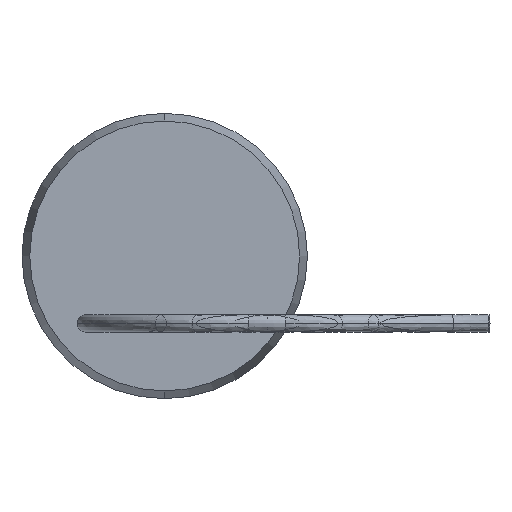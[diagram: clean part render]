
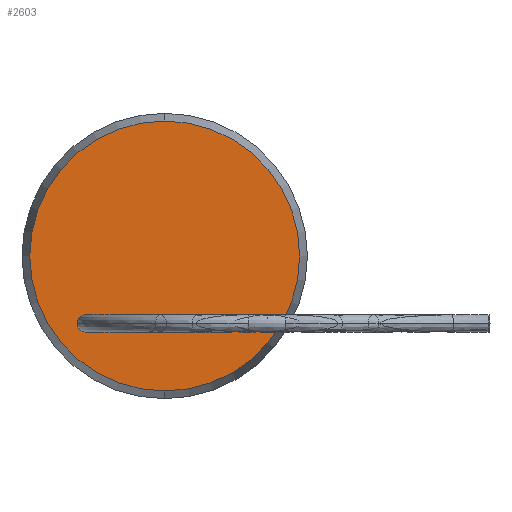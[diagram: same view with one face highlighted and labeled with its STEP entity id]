
A CAD part, left-side view. The second image highlights one B-rep face of the part: STEP entity #2603.
In plain terms, the highlighted planar face has unit normal (-1, 0, 0).
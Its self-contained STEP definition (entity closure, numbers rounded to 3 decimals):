
#1051 = CIRCLE ( 'NONE', #1052, 9.314 ) ;
#1052 = AXIS2_PLACEMENT_3D ( 'NONE', #1053, #1054, #1055 ) ;
#1053 = CARTESIAN_POINT ( 'NONE',  ( 0., 0., 0. ) ) ;
#1054 = DIRECTION ( 'NONE',  ( 1., 0., 0. ) ) ;
#1055 = DIRECTION ( 'NONE',  ( 0., 0., -1. ) ) ;
#1169 = CIRCLE ( 'NONE', #1170, 0.6 ) ;
#1170 = AXIS2_PLACEMENT_3D ( 'NONE', #1171, #1172, #1173 ) ;
#1171 = CARTESIAN_POINT ( 'NONE',  ( 0., 0., -4.65 ) ) ;
#1172 = DIRECTION ( 'NONE',  ( -1., 0., 0. ) ) ;
#1173 = DIRECTION ( 'NONE',  ( 0., 0., 1. ) ) ;
#1187 = FACE_BOUND ( 'NONE', #2663, .T. ) ;
#1188 = FACE_BOUND ( 'NONE', #3842, .T. ) ;
#1190 = FACE_BOUND ( 'NONE', #4970, .T. ) ;
#1191 = FACE_OUTER_BOUND ( 'NONE', #1741, .T. ) ;
#1192 = PLANE ( 'NONE',  #1193 ) ;
#1193 = AXIS2_PLACEMENT_3D ( 'NONE', #1194, #1195, #1196 ) ;
#1194 = CARTESIAN_POINT ( 'NONE',  ( 0., 9.687, 9.687 ) ) ;
#1195 = DIRECTION ( 'NONE',  ( 1., 0., 0. ) ) ;
#1196 = DIRECTION ( 'NONE',  ( 0., -1., 0. ) ) ;
#1214 = CIRCLE ( 'NONE', #1215, 0.6 ) ;
#1215 = AXIS2_PLACEMENT_3D ( 'NONE', #1216, #1217, #1218 ) ;
#1216 = CARTESIAN_POINT ( 'NONE',  ( 0., 0., -4.65 ) ) ;
#1217 = DIRECTION ( 'NONE',  ( -1., 0., 0. ) ) ;
#1218 = DIRECTION ( 'NONE',  ( 0., 0., 1. ) ) ;
#1634 = ORIENTED_EDGE ( 'NONE', *, *, #1666, .T. ) ;
#1666 = EDGE_CURVE ( 'NONE', #3235, #2931, #4553, .T. ) ;
#1713 = ORIENTED_EDGE ( 'NONE', *, *, #1924, .T. ) ;
#1741 = EDGE_LOOP ( 'NONE', ( #1791, #2959 ) ) ;
#1791 = ORIENTED_EDGE ( 'NONE', *, *, #7610, .F. ) ;
#1924 = EDGE_CURVE ( 'NONE', #2931, #3235, #5795, .T. ) ;
#2040 = VERTEX_POINT ( 'NONE', #6919 ) ;
#2189 = VERTEX_POINT ( 'NONE', #7649 ) ;
#2212 = EDGE_CURVE ( 'NONE', #2040, #2189, #7722, .T. ) ;
#2603 = ADVANCED_FACE ( 'NONE', ( #1187, #1188, #1190, #1191 ), #1192, .F. ) ;
#2663 = EDGE_LOOP ( 'NONE', ( #2737, #2807 ) ) ;
#2737 = ORIENTED_EDGE ( 'NONE', *, *, #2826, .F. ) ;
#2741 = VERTEX_POINT ( 'NONE', #3539 ) ;
#2762 = EDGE_CURVE ( 'NONE', #2741, #5736, #3615, .T. ) ;
#2807 = ORIENTED_EDGE ( 'NONE', *, *, #2762, .F. ) ;
#2826 = EDGE_CURVE ( 'NONE', #5736, #2741, #3791, .T. ) ;
#2931 = VERTEX_POINT ( 'NONE', #4154 ) ;
#2959 = ORIENTED_EDGE ( 'NONE', *, *, #2212, .F. ) ;
#2975 = VERTEX_POINT ( 'NONE', #4400 ) ;
#3074 = VERTEX_POINT ( 'NONE', #4871 ) ;
#3235 = VERTEX_POINT ( 'NONE', #5670 ) ;
#3539 = CARTESIAN_POINT ( 'NONE',  ( 0., 2.54, -5.25 ) ) ;
#3615 = CIRCLE ( 'NONE', #3616, 0.6 ) ;
#3616 = AXIS2_PLACEMENT_3D ( 'NONE', #3617, #3618, #3619 ) ;
#3617 = CARTESIAN_POINT ( 'NONE',  ( 0., 2.54, -4.65 ) ) ;
#3618 = DIRECTION ( 'NONE',  ( -1., 0., 0. ) ) ;
#3619 = DIRECTION ( 'NONE',  ( 0., 0., 1. ) ) ;
#3791 = CIRCLE ( 'NONE', #3792, 0.6 ) ;
#3792 = AXIS2_PLACEMENT_3D ( 'NONE', #3793, #3794, #3795 ) ;
#3793 = CARTESIAN_POINT ( 'NONE',  ( 0., 2.54, -4.65 ) ) ;
#3794 = DIRECTION ( 'NONE',  ( -1., 0., 0. ) ) ;
#3795 = DIRECTION ( 'NONE',  ( 0., 0., 1. ) ) ;
#3842 = EDGE_LOOP ( 'NONE', ( #4280, #4749 ) ) ;
#4154 = CARTESIAN_POINT ( 'NONE',  ( 0., -2.54, -5.25 ) ) ;
#4280 = ORIENTED_EDGE ( 'NONE', *, *, #7848, .F. ) ;
#4400 = CARTESIAN_POINT ( 'NONE',  ( 0., 0., -5.25 ) ) ;
#4553 = CIRCLE ( 'NONE', #4554, 0.6 ) ;
#4554 = AXIS2_PLACEMENT_3D ( 'NONE', #4555, #4556, #4557 ) ;
#4555 = CARTESIAN_POINT ( 'NONE',  ( 0., -2.54, -4.65 ) ) ;
#4556 = DIRECTION ( 'NONE',  ( 1., 0., 0. ) ) ;
#4557 = DIRECTION ( 'NONE',  ( 0., 0., 1. ) ) ;
#4749 = ORIENTED_EDGE ( 'NONE', *, *, #7792, .F. ) ;
#4871 = CARTESIAN_POINT ( 'NONE',  ( 0., 0., -4.05 ) ) ;
#4970 = EDGE_LOOP ( 'NONE', ( #1634, #1713 ) ) ;
#5670 = CARTESIAN_POINT ( 'NONE',  ( 0., -2.54, -4.05 ) ) ;
#5736 = VERTEX_POINT ( 'NONE', #8067 ) ;
#5795 = CIRCLE ( 'NONE', #5796, 0.6 ) ;
#5796 = AXIS2_PLACEMENT_3D ( 'NONE', #5797, #5798, #5799 ) ;
#5797 = CARTESIAN_POINT ( 'NONE',  ( 0., -2.54, -4.65 ) ) ;
#5798 = DIRECTION ( 'NONE',  ( 1., 0., 0. ) ) ;
#5799 = DIRECTION ( 'NONE',  ( 0., 0., 1. ) ) ;
#6919 = CARTESIAN_POINT ( 'NONE',  ( 0., 0., 9.314 ) ) ;
#7610 = EDGE_CURVE ( 'NONE', #2189, #2040, #1051, .T. ) ;
#7649 = CARTESIAN_POINT ( 'NONE',  ( 0., 0., -9.314 ) ) ;
#7722 = CIRCLE ( 'NONE', #7723, 9.314 ) ;
#7723 = AXIS2_PLACEMENT_3D ( 'NONE', #7724, #7725, #7726 ) ;
#7724 = CARTESIAN_POINT ( 'NONE',  ( 0., 0., 0. ) ) ;
#7725 = DIRECTION ( 'NONE',  ( 1., 0., 0. ) ) ;
#7726 = DIRECTION ( 'NONE',  ( 0., 0., -1. ) ) ;
#7792 = EDGE_CURVE ( 'NONE', #2975, #3074, #1169, .T. ) ;
#7848 = EDGE_CURVE ( 'NONE', #3074, #2975, #1214, .T. ) ;
#8067 = CARTESIAN_POINT ( 'NONE',  ( 0., 2.54, -4.05 ) ) ;
